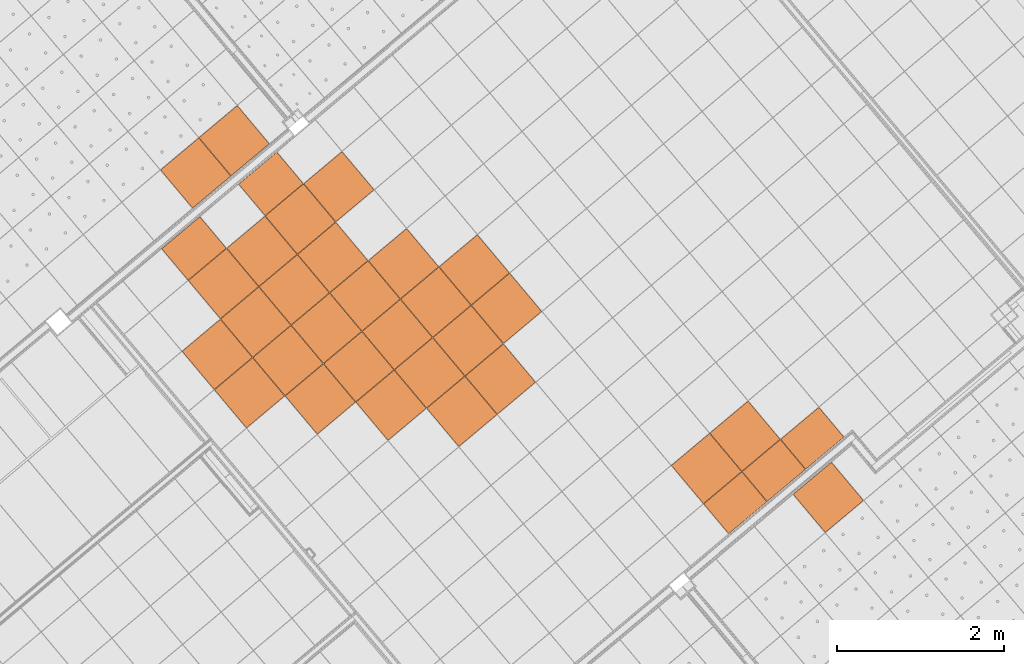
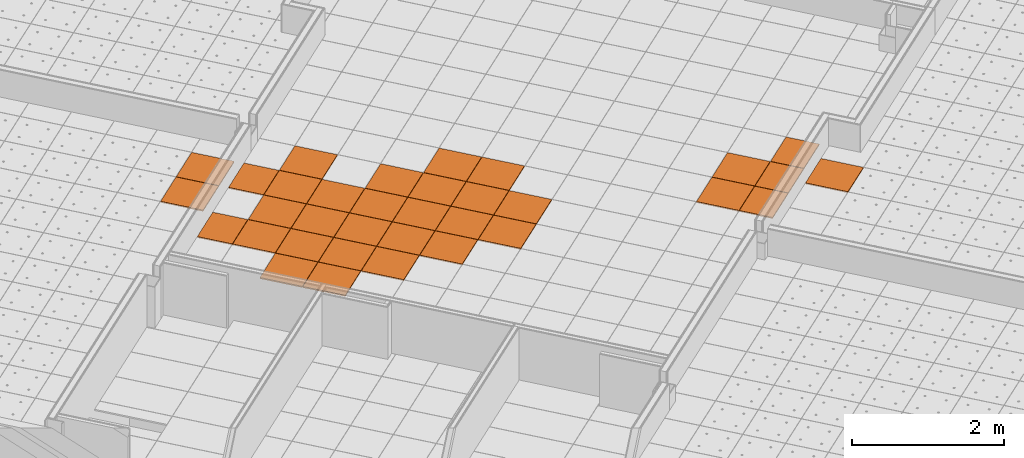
# One storey, part 149 of 338: 34 proxies, 3 elements without a shape of their own.
"""IFC2X3 building model written with IfcOpenShell, lengths in millimetres."""

import ifcopenshell
import ifcopenshell.guid

model = None  # the IFC model being written
_history = None  # IfcOwnerHistory: only IFC2X3 demands one
_inside = {}  # id of a spatial element -> (the spatial element, [elements in it])
_under = {}  # id of a project, library or spatial element -> (it, [spatial elements below it])
_declared = {}  # id of a project -> (the project, [libraries it declares])
_typed = {}  # id of a type object -> (the type object, [elements of that type])
_made_of = {}  # id of a material, layer set ... -> (it, [elements and type objects made of it])


def new_model(schema):
    """Start an empty IFC model of exactly this schema.

    Asked for "IFC4X3", IfcOpenShell would pick the latest addendum, in which some entities
    have other attributes; the version numbers below select the first issue.
    IFC2X3 requires an IfcOwnerHistory on every rooted entity: one is made here for all.
    """
    global model, _history
    if schema == "IFC4X3":
        model = ifcopenshell.file(schema_version=(4, 3, 0, 0))
    else:
        model = ifcopenshell.file(schema=schema)
    _inside.clear()
    _under.clear()
    _declared.clear()
    _typed.clear()
    _made_of.clear()
    _history = None
    if model.schema == "IFC2X3":
        org = make("IfcOrganization", Name="unknown")
        user = make(
            "IfcPersonAndOrganization",
            ThePerson=make("IfcPerson", FamilyName="unknown"),
            TheOrganization=org,
        )
        app = make(
            "IfcApplication",
            ApplicationDeveloper=org,
            Version="unknown",
            ApplicationFullName="unknown",
            ApplicationIdentifier="unknown",
        )
        _history = make(
            "IfcOwnerHistory",
            OwningUser=user,
            OwningApplication=app,
            ChangeAction="ADDED",
            CreationDate=0,
        )
    return model


def make(cls, **values):
    """One entity of the class cls with the attributes given. An attribute that is None is left unset."""
    return model.create_entity(
        cls, **{name: value for name, value in values.items() if value is not None}
    )


def entity(cls, *values):
    """Any entity or typed value of the class cls, its attributes in the order of the schema. None: left unset."""
    e = model.create_entity(cls)
    for i, value in enumerate(values):
        if value is not None:
            e[i] = value
    return e


def rooted(cls, **values):
    """An entity with a GlobalId (a new one), such as an element, a storey or a relation."""
    return make(cls, GlobalId=ifcopenshell.guid.new(), OwnerHistory=_history, **values)


def si_unit(unit_type, name, prefix=None):
    """IfcSIUnit, for example si_unit("LENGTHUNIT", "METRE", prefix="MILLI")."""
    return make("IfcSIUnit", UnitType=unit_type, Prefix=prefix, Name=name)


def converted_unit(unit_type, name, factor, base, dimensions=None, offset=None):
    """IfcConversionBasedUnit, such as the inch: factor (a typed value) times the base unit."""
    return make(
        "IfcConversionBasedUnit"
        if offset is None
        else "IfcConversionBasedUnitWithOffset",
        ConversionOffset=offset,
        Dimensions=None
        if dimensions is None
        else entity("IfcDimensionalExponents", *dimensions),
        UnitType=unit_type,
        Name=name,
        ConversionFactor=make(
            "IfcMeasureWithUnit", ValueComponent=factor, UnitComponent=base
        ),
    )


def derived_unit(unit_type, elements):
    """IfcDerivedUnit: a product of units, each with its exponent."""
    return make(
        "IfcDerivedUnit",
        Elements=[
            make("IfcDerivedUnitElement", Unit=unit, Exponent=power)
            for unit, power in elements
        ],
        UnitType=unit_type,
    )


def money_unit(currency):
    """IfcMonetaryUnit."""
    return make("IfcMonetaryUnit", Currency=currency)


def assignment(units):
    """IfcUnitAssignment: the units of a project."""
    return None if units is None else make("IfcUnitAssignment", Units=units)


def point(xyz):
    """IfcCartesianPoint."""
    return None if xyz is None else make("IfcCartesianPoint", Coordinates=xyz)


def direction(xyz):
    """IfcDirection."""
    return None if xyz is None else make("IfcDirection", DirectionRatios=xyz)


def frame(location, z_axis=None, x_axis=None):
    """IfcAxis2Placement3D, a coordinate frame: its origin and axes. An axis left out is left unset."""
    return make(
        "IfcAxis2Placement3D",
        Location=point(location),
        Axis=direction(z_axis),
        RefDirection=direction(x_axis),
    )


def origin_with_axes():
    """The frame at (0, 0, 0) with the z axis (0, 0, 1) and the x axis (1, 0, 0) written out."""
    return frame((0.0, 0.0, 0.0), z_axis=(0.0, 0.0, 1.0), x_axis=(1.0, 0.0, 0.0))


def place(relative_to, where):
    """IfcLocalPlacement: puts the frame where relative to a parent placement (None: the world)."""
    return make(
        "IfcLocalPlacement", PlacementRelTo=relative_to, RelativePlacement=where
    )


def context(
    kind, dimensions, precision=None, world=None, true_north=None, identifier=None
):
    """IfcGeometricRepresentationContext, for example the 3D "Model" context."""
    return make(
        "IfcGeometricRepresentationContext",
        ContextIdentifier=identifier,
        ContextType=kind,
        CoordinateSpaceDimension=dimensions,
        Precision=precision,
        WorldCoordinateSystem=world,
        TrueNorth=true_north,
    )


def subcontext(parent, identifier, kind, view, scale=None):
    """IfcGeometricRepresentationSubContext, for example "Body" below "Model"."""
    return make(
        "IfcGeometricRepresentationSubContext",
        ContextIdentifier=identifier,
        ContextType=kind,
        ParentContext=parent,
        TargetScale=scale,
        TargetView=view,
    )


def project(units=None, contexts=None):
    """IfcProject with its units and contexts."""
    return rooted(
        "IfcProject",
        Name="project",
        RepresentationContexts=contexts,
        UnitsInContext=assignment(units),
    )


def spatial(cls, under=None, at=None, **own):
    """A site, building, storey or space (cls), placed at a placement, below another one or the project."""
    s = rooted(cls, ObjectPlacement=at, **own)
    if under is not None:
        _under.setdefault(under.id(), (under, []))[1].append(s)
    return s


def faces_of(points, faces, orient=None, outer=None):
    """IfcFace entities. A face is a list of loops; a loop is a list of indices into points, from 0.

    orient and outer hold one flag for each loop. By default every Orientation is true, the
    first loop of a face is its IfcFaceOuterBound and the others are IfcFaceBound.
    """
    made = []
    for i, loops in enumerate(faces):
        bounds = []
        for j, loop in enumerate(loops):
            is_outer = j == 0 if outer is None else outer[i][j]
            bounds.append(
                make(
                    "IfcFaceOuterBound" if is_outer else "IfcFaceBound",
                    Bound=make("IfcPolyLoop", Polygon=[points[k] for k in loop]),
                    Orientation=True if orient is None else orient[i][j],
                )
            )
        made.append(make("IfcFace", Bounds=bounds))
    return made


def faceted_brep(points, faces, orient=None, outer=None, voids=None):
    """IfcFacetedBrep: a solid bounded by flat faces; with voids (closed shells), ...WithVoids."""
    shared = [point(p) for p in points]
    hull = make("IfcClosedShell", CfsFaces=faces_of(shared, faces, orient, outer))
    if voids is None:
        return make("IfcFacetedBrep", Outer=hull)
    return make(
        "IfcFacetedBrepWithVoids",
        Outer=hull,
        Voids=[
            make(cls, CfsFaces=faces_of(shared, fs, o, b)) for cls, fs, o, b in voids
        ],
    )


def shape(context_of_items, identifier, shape_type, items):
    """IfcShapeRepresentation: the items that make up one representation, for example the "Body"."""
    return make(
        "IfcShapeRepresentation",
        ContextOfItems=context_of_items,
        RepresentationIdentifier=identifier,
        RepresentationType=shape_type,
        Items=items,
    )


def source(mapping_origin, context_of_items, identifier, shape_type, items):
    """IfcRepresentationMap: a shape defined once, which mapped items show again and again."""
    return make(
        "IfcRepresentationMap",
        MappingOrigin=mapping_origin,
        MappedRepresentation=shape(context_of_items, identifier, shape_type, items),
    )


def transform(
    local_origin,
    x_axis=None,
    y_axis=None,
    z_axis=None,
    scale=None,
    scale2=None,
    scale3=None,
    uniform=True,
):
    """IfcCartesianTransformationOperator3D, or its non-uniform kind. x_axis, y_axis, z_axis: its Axis1, 2, 3."""
    if uniform:
        return make(
            "IfcCartesianTransformationOperator3D",
            Axis1=direction(x_axis),
            Axis2=direction(y_axis),
            LocalOrigin=point(local_origin),
            Scale=scale,
            Axis3=direction(z_axis),
        )
    return make(
        "IfcCartesianTransformationOperator3DnonUniform",
        Axis1=direction(x_axis),
        Axis2=direction(y_axis),
        LocalOrigin=point(local_origin),
        Scale=scale,
        Axis3=direction(z_axis),
        Scale2=scale2,
        Scale3=scale3,
    )


def mapped(mapping_source, mapping_target):
    """IfcMappedItem: shows the shape of a source again, moved by a transform."""
    return make(
        "IfcMappedItem", MappingSource=mapping_source, MappingTarget=mapping_target
    )


def material(Name=None, Category=None):
    """IfcMaterial."""
    return make("IfcMaterial", Name=Name, Category=Category)


def made_of(thing, what):
    """Note that an element or type object is made of a material, layer set ...; save() writes the relation."""
    if what is not None:
        _made_of.setdefault(what.id(), (what, []))[1].append(thing)
    return thing


def type_object(cls, material=None, **own):
    """A type object (cls), such as IfcWallType, which elements share."""
    return made_of(rooted(cls, **own), material)


def type_shapes(of_type, sources):
    """Give a type object the sources (RepresentationMaps) that its elements show as mapped items."""
    of_type.RepresentationMaps = sources


def element(
    cls,
    number,
    at=None,
    inside=None,
    cuts=None,
    type_object=None,
    material=None,
    context=None,
    identifier="Body",
    shape_type=None,
    held_by="IfcProductDefinitionShape",
    body=None,
    shapes=None,
    **own,
):
    """One element of the class cls, such as IfcWall. Its Tag is "e" and its number.

    at: its placement. inside: the storey or other place that contains it. cuts: it is an
    opening in that element (IfcRelVoidsElement). A single representation is given by context,
    identifier, shape_type and body (its items); several are given by shapes. held_by: the class
    of the entity that holds the representations. save() writes the other relations.
    """
    e = rooted(cls, Tag="e%d" % number, ObjectPlacement=at, **own)
    if body is not None:
        shapes = [shape(context, identifier, shape_type, body)]
    if shapes is not None:
        e.Representation = make(held_by, Representations=shapes)
    if inside is not None:
        _inside.setdefault(inside.id(), (inside, []))[1].append(e)
    if cuts is not None:
        rooted(
            "IfcRelVoidsElement", RelatingBuildingElement=cuts, RelatedOpeningElement=e
        )
    if type_object is not None:
        _typed.setdefault(type_object.id(), (type_object, []))[1].append(e)
    return made_of(e, material)


def aggregate(whole, parts):
    """IfcRelAggregates: a whole, such as a stair, and the parts it consists of."""
    return rooted("IfcRelAggregates", RelatingObject=whole, RelatedObjects=parts)


def save(model, path):
    """Write the relations noted so far, then the file.

    IfcRelAggregates (storeys below a building ...), IfcRelContainedInSpatialStructure (elements
    in a storey), IfcRelDefinesByType, IfcRelAssociatesMaterial and IfcRelDeclares: one each for
    every whole, place, type object, material and project.
    """
    for whole, parts in _under.values():
        aggregate(whole, parts)
    for where, things in _inside.values():
        rooted(
            "IfcRelContainedInSpatialStructure",
            RelatedElements=things,
            RelatingStructure=where,
        )
    for kind, things in _typed.values():
        rooted("IfcRelDefinesByType", RelatedObjects=things, RelatingType=kind)
    for what, things in _made_of.values():
        rooted("IfcRelAssociatesMaterial", RelatedObjects=things, RelatingMaterial=what)
    for by, libraries in _declared.values():
        rooted("IfcRelDeclares", RelatingContext=by, RelatedDefinitions=libraries)
    model.write(path)


model = new_model("IFC2X3")

# Units and contexts
model_context = context("Model", 3, precision=0.01, world=origin_with_axes(), true_north=direction((0.0, 1.0)))
plan_context = context("Plan", 3, precision=0.01, world=origin_with_axes(), true_north=direction((0.0, 1.0)))
body_context = subcontext(model_context, "Body", "Model", "MODEL_VIEW")
ifc_project = project(units=[si_unit("LENGTHUNIT", "METRE", prefix="MILLI"), si_unit("AREAUNIT", "SQUARE_METRE"), si_unit("VOLUMEUNIT", "CUBIC_METRE"), converted_unit("PLANEANGLEUNIT", "DEGREE", entity("IfcPlaneAngleMeasure", 0.0174532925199), si_unit("PLANEANGLEUNIT", "RADIAN"), dimensions=[0, 0, 0, 0, 0, 0, 0]), money_unit("EUR"), converted_unit("TIMEUNIT", "Year", entity("IfcTimeMeasure", 31556926.0), si_unit("TIMEUNIT", "SECOND"), dimensions=[0, 0, 1, 0, 0, 0, 0]), si_unit("MASSUNIT", "GRAM", prefix="KILO"), si_unit("THERMODYNAMICTEMPERATUREUNIT", "DEGREE_CELSIUS"), si_unit("LUMINOUSINTENSITYUNIT", "LUMEN"), si_unit("ENERGYUNIT", "JOULE", prefix="MEGA"), derived_unit("THERMALCONDUCTANCEUNIT", [(si_unit("POWERUNIT", "WATT"), 1), (si_unit("LENGTHUNIT", "METRE"), -1), (si_unit("THERMODYNAMICTEMPERATUREUNIT", "KELVIN"), -1)]), derived_unit("SPECIFICHEATCAPACITYUNIT", [(si_unit("ENERGYUNIT", "JOULE"), 1), (si_unit("MASSUNIT", "GRAM", prefix="KILO"), -1), (si_unit("THERMODYNAMICTEMPERATUREUNIT", "KELVIN"), -1)]), derived_unit("MASSDENSITYUNIT", [(si_unit("MASSUNIT", "GRAM", prefix="KILO"), 1), (si_unit("VOLUMEUNIT", "CUBIC_METRE"), -1)])], contexts=[model_context, plan_context])

# Site, building, storey
site_placement = place(None, origin_with_axes())
site = spatial("IfcSite", under=ifc_project, at=site_placement, Name="Fortuinstraat Woensdrecht", CompositionType="ELEMENT")
building_placement = place(site_placement, origin_with_axes())
building = spatial("IfcBuilding", under=site, at=building_placement, Name="IKC Fortuna", CompositionType="ELEMENT")
storey_placement = place(building_placement, origin_with_axes())
storey = spatial("IfcBuildingStorey", under=building, at=storey_placement, Name="00 begane grond", CompositionType="ELEMENT", Elevation=0.0)

# Covering, proxies
covering_type = type_object("IfcCoveringType", Name="Curtain Wall Type", PredefinedType="CEILING")
covering_1_placement = place(storey_placement, frame((17937.1227498, -4186.27868692, 4660.0), z_axis=(0.0, 0.0, 1.0), x_axis=(1.0, 0.0, 0.0)))
covering_1 = element("IfcCovering", 1, at=covering_1_placement, inside=storey, type_object=covering_type, Name="45_Plafondafwerking_P02", PredefinedType="CEILING")
ifc_material = material(Name="Gipsplaat")
building_element_proxy_type_1 = type_object("IfcBuildingElementProxyType", Name="Distinct Panel 600 x 600 x 20", PredefinedType="NOTDEFINED")
shared_shape_1 = source(origin_with_axes(), body_context, "Body", "Brep", [
    faceted_brep([(2.49999999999, 2.5, -10.0), (597.5, 2.49999999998, -10.0), (597.5, 2.49999999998, 10.0), (2.49999999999, 2.5, 10.0), (2.50000000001, 597.5, -10.0), (597.5, 597.5, -10.0), (597.5, 597.5, 10.0), (2.50000000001, 597.5, 10.0)], [[[0, 1, 2, 3]], [[0, 4, 5, 1]], [[1, 5, 6, 2]], [[3, 2, 6, 7]], [[4, 0, 3, 7]], [[5, 4, 7, 6]]]),
])
proxy_1_placement = place(covering_1_placement, frame((-7903.28832612, 1017.86127667, 2.3803181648e-10), z_axis=(0.0, 0.0, 1.0), x_axis=(1.0, 0.0, 0.0)))
proxy_1 = element("IfcBuildingElementProxy", 2, at=proxy_1_placement, type_object=building_element_proxy_type_1, material=ifc_material, Name="__Panel-D", context=body_context, shape_type="MappedRepresentation", body=[
    mapped(shared_shape_1, transform((36.9769427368, 422.649625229, 0.0), x_axis=(-0.766044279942, -0.642787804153, 0.0), y_axis=(0.642787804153, -0.766044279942, 0.0), z_axis=(0.0, 0.0, 1.0))),
])
proxy_2_placement = place(covering_1_placement, frame((-8362.91489409, 632.188594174, 2.57571741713e-10), z_axis=(0.0, 0.0, 1.0), x_axis=(1.0, 0.0, 0.0)))
proxy_2 = element("IfcBuildingElementProxy", 3, at=proxy_2_placement, type_object=building_element_proxy_type_1, material=ifc_material, Name="__Panel-D", context=body_context, shape_type="MappedRepresentation", body=[
    mapped(shared_shape_1, transform((36.9769427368, 422.649625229, 0.0), x_axis=(-0.766044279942, -0.642787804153, 0.0), y_axis=(0.642787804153, -0.766044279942, 0.0), z_axis=(0.0, 0.0, 1.0))),
])
proxy_3_placement = place(covering_1_placement, frame((-6910.08130472, 2634.50589211, 1.79412040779e-10), z_axis=(0.0, 0.0, 1.0), x_axis=(1.0, 0.0, 0.0)))
proxy_3 = element("IfcBuildingElementProxy", 4, at=proxy_3_placement, type_object=building_element_proxy_type_1, material=ifc_material, Name="__Panel-D", context=body_context, shape_type="MappedRepresentation", body=[
    mapped(shared_shape_1, transform((36.9769427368, 422.649625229, 0.0), x_axis=(-0.766044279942, -0.642787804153, 0.0), y_axis=(0.642787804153, -0.766044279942, 0.0), z_axis=(0.0, 0.0, 1.0))),
])
proxy_4_placement = place(covering_1_placement, frame((-7369.70787268, 2248.83320961, 1.98951966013e-10), z_axis=(0.0, 0.0, 1.0), x_axis=(1.0, 0.0, 0.0)))
proxy_4 = element("IfcBuildingElementProxy", 5, at=proxy_4_placement, type_object=building_element_proxy_type_1, material=ifc_material, Name="__Panel-D", context=body_context, shape_type="MappedRepresentation", body=[
    mapped(shared_shape_1, transform((36.9769427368, 422.649625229, 0.0), x_axis=(-0.766044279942, -0.642787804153, 0.0), y_axis=(0.642787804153, -0.766044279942, 0.0), z_axis=(0.0, 0.0, 1.0))),
])
proxy_5_placement = place(covering_1_placement, frame((-7829.33444065, 1863.16052712, 2.18491891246e-10), z_axis=(0.0, 0.0, 1.0), x_axis=(1.0, 0.0, 0.0)))
proxy_5 = element("IfcBuildingElementProxy", 6, at=proxy_5_placement, type_object=building_element_proxy_type_1, material=ifc_material, Name="__Panel-D", context=body_context, shape_type="MappedRepresentation", body=[
    mapped(shared_shape_1, transform((36.9769427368, 422.649625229, 0.0), x_axis=(-0.766044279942, -0.642787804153, 0.0), y_axis=(0.642787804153, -0.766044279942, 0.0), z_axis=(0.0, 0.0, 1.0))),
])
proxy_6_placement = place(covering_1_placement, frame((-7517.61564363, 558.2347087, 2.3803181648e-10), z_axis=(0.0, 0.0, 1.0), x_axis=(1.0, 0.0, 0.0)))
proxy_6 = element("IfcBuildingElementProxy", 7, at=proxy_6_placement, type_object=building_element_proxy_type_1, material=ifc_material, Name="__Panel-D", context=body_context, shape_type="MappedRepresentation", body=[
    mapped(shared_shape_1, transform((36.9769427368, 422.649625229, 0.0), x_axis=(-0.766044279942, -0.642787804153, 0.0), y_axis=(0.642787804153, -0.766044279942, 0.0), z_axis=(0.0, 0.0, 1.0))),
])
proxy_7_placement = place(covering_1_placement, frame((-8288.96100861, 1477.48784463, 2.3803181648e-10), z_axis=(0.0, 0.0, 1.0), x_axis=(1.0, 0.0, 0.0)))
proxy_7 = element("IfcBuildingElementProxy", 8, at=proxy_7_placement, type_object=building_element_proxy_type_1, material=ifc_material, Name="__Panel-D", context=body_context, shape_type="MappedRepresentation", body=[
    mapped(shared_shape_1, transform((36.9769427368, 422.649625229, 0.0), x_axis=(-0.766044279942, -0.642787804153, 0.0), y_axis=(0.642787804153, -0.766044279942, 0.0), z_axis=(0.0, 0.0, 1.0))),
])
proxy_8_placement = place(covering_1_placement, frame((-6984.03519019, 1789.20664165, 1.98951966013e-10), z_axis=(0.0, 0.0, 1.0), x_axis=(1.0, 0.0, 0.0)))
proxy_8 = element("IfcBuildingElementProxy", 9, at=proxy_8_placement, type_object=building_element_proxy_type_1, material=ifc_material, Name="__Panel-D", context=body_context, shape_type="MappedRepresentation", body=[
    mapped(shared_shape_1, transform((36.9769427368, 422.649625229, 0.0), x_axis=(-0.766044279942, -0.642787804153, 0.0), y_axis=(0.642787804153, -0.766044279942, 0.0), z_axis=(0.0, 0.0, 1.0))),
])
proxy_9_placement = place(covering_1_placement, frame((-6286.64371068, 24.6542552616, 2.18491891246e-10), z_axis=(0.0, 0.0, 1.0), x_axis=(1.0, 0.0, 0.0)))
proxy_9 = element("IfcBuildingElementProxy", 10, at=proxy_9_placement, type_object=building_element_proxy_type_1, material=ifc_material, Name="__Panel-D", context=body_context, shape_type="MappedRepresentation", body=[
    mapped(shared_shape_1, transform((36.9769427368, 422.649625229, 0.0), x_axis=(-0.766044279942, -0.642787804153, 0.0), y_axis=(0.642787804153, -0.766044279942, 0.0), z_axis=(0.0, 0.0, 1.0))),
])
proxy_10_placement = place(covering_1_placement, frame((-6672.31639317, 484.280823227, 2.18491891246e-10), z_axis=(0.0, 0.0, 1.0), x_axis=(1.0, 0.0, 0.0)))
proxy_10 = element("IfcBuildingElementProxy", 11, at=proxy_10_placement, type_object=building_element_proxy_type_1, material=ifc_material, Name="__Panel-D", context=body_context, shape_type="MappedRepresentation", body=[
    mapped(shared_shape_1, transform((36.9769427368, 422.649625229, 0.0), x_axis=(-0.766044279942, -0.642787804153, 0.0), y_axis=(0.642787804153, -0.766044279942, 0.0), z_axis=(0.0, 0.0, 1.0))),
])
proxy_11_placement = place(covering_1_placement, frame((-6138.73593973, 1715.25275618, 1.79412040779e-10), z_axis=(0.0, 0.0, 1.0), x_axis=(1.0, 0.0, 0.0)))
proxy_11 = element("IfcBuildingElementProxy", 12, at=proxy_11_placement, type_object=building_element_proxy_type_1, material=ifc_material, Name="__Panel-D", context=body_context, shape_type="MappedRepresentation", body=[
    mapped(shared_shape_1, transform((36.9769427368, 422.649625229, 0.0), x_axis=(-0.766044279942, -0.642787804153, 0.0), y_axis=(0.642787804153, -0.766044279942, 0.0), z_axis=(0.0, 0.0, 1.0))),
])
proxy_12_placement = place(covering_1_placement, frame((-7131.94296114, 98.6081407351, 2.3803181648e-10), z_axis=(0.0, 0.0, 1.0), x_axis=(1.0, 0.0, 0.0)))
proxy_12 = element("IfcBuildingElementProxy", 13, at=proxy_12_placement, type_object=building_element_proxy_type_1, material=ifc_material, Name="__Panel-D", context=body_context, shape_type="MappedRepresentation", body=[
    mapped(shared_shape_1, transform((36.9769427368, 422.649625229, 0.0), x_axis=(-0.766044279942, -0.642787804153, 0.0), y_axis=(0.642787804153, -0.766044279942, 0.0), z_axis=(0.0, 0.0, 1.0))),
])
proxy_13_placement = place(covering_1_placement, frame((-5441.34446022, -49.299630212, 1.98951966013e-10), z_axis=(0.0, 0.0, 1.0), x_axis=(1.0, 0.0, 0.0)))
proxy_13 = element("IfcBuildingElementProxy", 14, at=proxy_13_placement, type_object=building_element_proxy_type_1, material=ifc_material, Name="__Panel-D", context=body_context, shape_type="MappedRepresentation", body=[
    mapped(shared_shape_1, transform((36.9769427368, 422.649625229, 0.0), x_axis=(-0.766044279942, -0.642787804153, 0.0), y_axis=(0.642787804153, -0.766044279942, 0.0), z_axis=(0.0, 0.0, 1.0))),
])
proxy_14_placement = place(covering_1_placement, frame((-2060.1474584, -345.115172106, 1.1990408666e-10), z_axis=(0.0, 0.0, 1.0), x_axis=(1.0, 0.0, 0.0)))
proxy_14 = element("IfcBuildingElementProxy", 15, at=proxy_14_placement, type_object=building_element_proxy_type_1, material=ifc_material, Name="__Panel-D", context=body_context, shape_type="MappedRepresentation", body=[
    mapped(shared_shape_1, transform((36.9769427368, 422.649625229, 0.0), x_axis=(-0.766044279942, -0.642787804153, 0.0), y_axis=(0.642787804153, -0.766044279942, 0.0), z_axis=(0.0, 0.0, 1.0))),
])
proxy_15_placement = place(covering_1_placement, frame((-2519.77402636, -730.787854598, 1.39444011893e-10), z_axis=(0.0, 0.0, 1.0), x_axis=(1.0, 0.0, 0.0)))
proxy_15 = element("IfcBuildingElementProxy", 16, at=proxy_15_placement, type_object=building_element_proxy_type_1, material=ifc_material, Name="__Panel-D", context=body_context, shape_type="MappedRepresentation", body=[
    mapped(shared_shape_1, transform((36.9769427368, 422.649625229, 0.0), x_axis=(-0.766044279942, -0.642787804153, 0.0), y_axis=(0.642787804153, -0.766044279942, 0.0), z_axis=(0.0, 0.0, 1.0))),
])
proxy_16_placement = place(covering_1_placement, frame((-5293.43668928, 1641.2988707, 1.58983937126e-10), z_axis=(0.0, 0.0, 1.0), x_axis=(1.0, 0.0, 0.0)))
proxy_16 = element("IfcBuildingElementProxy", 17, at=proxy_16_placement, type_object=building_element_proxy_type_1, material=ifc_material, Name="__Panel-D", context=body_context, shape_type="MappedRepresentation", body=[
    mapped(shared_shape_1, transform((36.9769427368, 422.649625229, 0.0), x_axis=(-0.766044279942, -0.642787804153, 0.0), y_axis=(0.642787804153, -0.766044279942, 0.0), z_axis=(0.0, 0.0, 1.0))),
])
proxy_17_placement = place(covering_1_placement, frame((-4907.76400679, 1181.67230274, 1.58983937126e-10), z_axis=(0.0, 0.0, 1.0), x_axis=(1.0, 0.0, 0.0)))
proxy_17 = element("IfcBuildingElementProxy", 18, at=proxy_17_placement, type_object=building_element_proxy_type_1, material=ifc_material, Name="__Panel-D", context=body_context, shape_type="MappedRepresentation", body=[
    mapped(shared_shape_1, transform((36.9769427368, 422.649625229, 0.0), x_axis=(-0.766044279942, -0.642787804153, 0.0), y_axis=(0.642787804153, -0.766044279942, 0.0), z_axis=(0.0, 0.0, 1.0))),
])
proxy_18_placement = place(covering_1_placement, frame((-5753.06325724, 1255.62618821, 1.79412040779e-10), z_axis=(0.0, 0.0, 1.0), x_axis=(1.0, 0.0, 0.0)))
proxy_18 = element("IfcBuildingElementProxy", 19, at=proxy_18_placement, type_object=building_element_proxy_type_1, material=ifc_material, Name="__Panel-D", context=body_context, shape_type="MappedRepresentation", body=[
    mapped(shared_shape_1, transform((36.9769427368, 422.649625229, 0.0), x_axis=(-0.766044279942, -0.642787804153, 0.0), y_axis=(0.642787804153, -0.766044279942, 0.0), z_axis=(0.0, 0.0, 1.0))),
])
proxy_19_placement = place(covering_1_placement, frame((-5367.39057475, 795.999620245, 1.79412040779e-10), z_axis=(0.0, 0.0, 1.0), x_axis=(1.0, 0.0, 0.0)))
proxy_19 = element("IfcBuildingElementProxy", 20, at=proxy_19_placement, type_object=building_element_proxy_type_1, material=ifc_material, Name="__Panel-D", context=body_context, shape_type="MappedRepresentation", body=[
    mapped(shared_shape_1, transform((36.9769427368, 422.649625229, 0.0), x_axis=(-0.766044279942, -0.642787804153, 0.0), y_axis=(0.642787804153, -0.766044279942, 0.0), z_axis=(0.0, 0.0, 1.0))),
])
proxy_20_placement = place(covering_1_placement, frame((-4981.71789226, 336.37305228, 1.79412040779e-10), z_axis=(0.0, 0.0, 1.0), x_axis=(1.0, 0.0, 0.0)))
proxy_20 = element("IfcBuildingElementProxy", 21, at=proxy_20_placement, type_object=building_element_proxy_type_1, material=ifc_material, Name="__Panel-D", context=body_context, shape_type="MappedRepresentation", body=[
    mapped(shared_shape_1, transform((36.9769427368, 422.649625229, 0.0), x_axis=(-0.766044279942, -0.642787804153, 0.0), y_axis=(0.642787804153, -0.766044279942, 0.0), z_axis=(0.0, 0.0, 1.0))),
])
proxy_21_placement = place(covering_1_placement, frame((-6212.68982521, 869.953505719, 1.98951966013e-10), z_axis=(0.0, 0.0, 1.0), x_axis=(1.0, 0.0, 0.0)))
proxy_21 = element("IfcBuildingElementProxy", 22, at=proxy_21_placement, type_object=building_element_proxy_type_1, material=ifc_material, Name="__Panel-D", context=body_context, shape_type="MappedRepresentation", body=[
    mapped(shared_shape_1, transform((36.9769427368, 422.649625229, 0.0), x_axis=(-0.766044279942, -0.642787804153, 0.0), y_axis=(0.642787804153, -0.766044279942, 0.0), z_axis=(0.0, 0.0, 1.0))),
])
proxy_22_placement = place(covering_1_placement, frame((-5827.01714272, 410.326937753, 1.98951966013e-10), z_axis=(0.0, 0.0, 1.0), x_axis=(1.0, 0.0, 0.0)))
proxy_22 = element("IfcBuildingElementProxy", 23, at=proxy_22_placement, type_object=building_element_proxy_type_1, material=ifc_material, Name="__Panel-D", context=body_context, shape_type="MappedRepresentation", body=[
    mapped(shared_shape_1, transform((36.9769427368, 422.649625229, 0.0), x_axis=(-0.766044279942, -0.642787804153, 0.0), y_axis=(0.642787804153, -0.766044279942, 0.0), z_axis=(0.0, 0.0, 1.0))),
])
building_element_proxy_type_2 = type_object("IfcBuildingElementProxyType", Name="Distinct Panel 600 x 470 x 20", PredefinedType="NOTDEFINED")
shared_shape_2 = source(origin_with_axes(), body_context, "Body", "Brep", [
    faceted_brep([(2.49999368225, 2.50000660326, -10.0), (597.499997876, 2.49999535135, -10.0), (597.499997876, 2.49999535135, 10.0), (2.49999368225, 2.50000660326, 10.0), (2.49999873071, 467.226768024, -10.0), (597.500011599, 467.226749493, -10.0), (597.500011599, 467.226749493, 10.0), (2.49999873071, 467.226768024, 10.0)], [[[0, 1, 2, 3]], [[0, 4, 5, 1]], [[1, 5, 6, 2]], [[3, 2, 6, 7]], [[4, 0, 3, 7]], [[5, 4, 7, 6]]]),
])
type_shapes(building_element_proxy_type_2, [shared_shape_2])
proxy_23_placement = place(covering_1_placement, frame((-2175.97036963, -1140.51688642, 1.39444011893e-10), z_axis=(0.0, 0.0, 1.0), x_axis=(1.0, 0.0, 0.0)))
proxy_23 = element("IfcBuildingElementProxy", 24, at=proxy_23_placement, type_object=building_element_proxy_type_2, material=ifc_material, Name="__Panel-D", context=body_context, shape_type="MappedRepresentation", body=[
    mapped(shared_shape_2, transform((78.8459684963, 372.752089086, 0.0), x_axis=(-0.766044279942, -0.642787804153, 0.0), y_axis=(0.642787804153, -0.766044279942, 0.0), z_axis=(0.0, 0.0, 1.0))),
])
proxy_24_placement = place(covering_1_placement, frame((-1716.34380166, -754.844203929, 1.1990408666e-10), z_axis=(0.0, 0.0, 1.0), x_axis=(1.0, 0.0, 0.0)))
proxy_24 = element("IfcBuildingElementProxy", 25, at=proxy_24_placement, type_object=building_element_proxy_type_2, material=ifc_material, Name="__Panel-D", context=body_context, shape_type="MappedRepresentation", body=[
    mapped(shared_shape_2, transform((78.8459684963, 372.752089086, 0.0), x_axis=(-0.766044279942, -0.642787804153, 0.0), y_axis=(0.642787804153, -0.766044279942, 0.0), z_axis=(0.0, 0.0, 1.0))),
])
proxy_25_placement = place(covering_1_placement, frame((-1256.7172337, -369.171521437, 1.00364161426e-10), z_axis=(0.0, 0.0, 1.0), x_axis=(1.0, 0.0, 0.0)))
proxy_25 = element("IfcBuildingElementProxy", 26, at=proxy_25_placement, type_object=building_element_proxy_type_2, material=ifc_material, Name="__Panel-D", context=body_context, shape_type="MappedRepresentation", body=[
    mapped(shared_shape_2, transform((78.8459684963, 372.752089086, 0.0), x_axis=(-0.766044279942, -0.642787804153, 0.0), y_axis=(0.642787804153, -0.766044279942, 0.0), z_axis=(0.0, 0.0, 1.0))),
])
building_element_proxy_type_3 = type_object("IfcBuildingElementProxyType", Name="Distinct Panel 600 x 495 x 20", PredefinedType="NOTDEFINED")
shared_shape_3 = source(origin_with_axes(), body_context, "Body", "Brep", [
    faceted_brep([(2.49999363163, 107.227066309, -10.0), (597.499995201, 107.226926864, -10.0), (597.499995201, 107.226926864, 10.0), (2.49999363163, 107.227066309, 10.0), (2.50000062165, 597.499998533, -10.0), (597.500007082, 597.499990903, -10.0), (597.500007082, 597.499990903, 10.0), (2.50000062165, 597.499998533, 10.0)], [[[0, 1, 2, 3]], [[0, 4, 5, 1]], [[1, 5, 6, 2]], [[3, 2, 6, 7]], [[4, 0, 3, 7]], [[5, 4, 7, 6]]]),
])
proxy_26_placement = place(covering_1_placement, frame((-8640.97507286, 1897.00165407, 2.3803181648e-10), z_axis=(0.0, 0.0, 1.0), x_axis=(1.0, 0.0, 0.0)))
proxy_26 = element("IfcBuildingElementProxy", 27, at=proxy_26_placement, type_object=building_element_proxy_type_3, material=ifc_material, Name="__Panel-D", context=body_context, shape_type="MappedRepresentation", body=[
    mapped(shared_shape_3, transform((3.31832449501, 462.76238376, 0.0), x_axis=(-0.766044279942, -0.642787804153, 0.0), y_axis=(0.642787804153, -0.766044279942, 0.0), z_axis=(0.0, 0.0, 1.0))),
])
shared_shape_4 = source(origin_with_axes(), body_context, "Body", "Brep", [
    faceted_brep([(2.5000069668, 2.4999963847, -10.0), (597.499995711, 2.50000275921, -10.0), (597.499995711, 2.50000275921, 10.0), (2.5000069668, 2.4999963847, 10.0), (2.50000214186, 597.499967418, -10.0), (597.499990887, 597.499973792, -10.0), (597.499990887, 597.499973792, 10.0), (2.50000214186, 597.499967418, 10.0)], [[[0, 1, 2, 3]], [[0, 4, 5, 1]], [[1, 5, 6, 2]], [[3, 2, 6, 7]], [[4, 0, 3, 7]], [[5, 4, 7, 6]]]),
])
type_shapes(building_element_proxy_type_1, [shared_shape_1, shared_shape_4])
proxy_27_placement = place(covering_1_placement, frame((-7057.98907567, 943.907391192, 2.18491891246e-10), z_axis=(0.0, 0.0, 1.0), x_axis=(1.0, 0.0, 0.0)))
proxy_27 = element("IfcBuildingElementProxy", 28, at=proxy_27_placement, type_object=building_element_proxy_type_1, material=ifc_material, Name="__Panel-D", context=body_context, shape_type="MappedRepresentation", body=[
    mapped(shared_shape_4, transform((36.9769427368, 422.649625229, 0.0), x_axis=(-0.766044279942, -0.642787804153, 0.0), y_axis=(0.642787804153, -0.766044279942, 0.0), z_axis=(0.0, 0.0, 1.0))),
])
proxy_28_placement = place(covering_1_placement, frame((-7443.66175816, 1403.53395916, 2.18491891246e-10), z_axis=(0.0, 0.0, 1.0), x_axis=(1.0, 0.0, 0.0)))
proxy_28 = element("IfcBuildingElementProxy", 29, at=proxy_28_placement, type_object=building_element_proxy_type_1, material=ifc_material, Name="__Panel-D", context=body_context, shape_type="MappedRepresentation", body=[
    mapped(shared_shape_4, transform((36.9769427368, 422.649625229, 0.0), x_axis=(-0.766044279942, -0.642787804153, 0.0), y_axis=(0.642787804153, -0.766044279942, 0.0), z_axis=(0.0, 0.0, 1.0))),
])
proxy_29_placement = place(covering_1_placement, frame((-7977.2422116, 172.562026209, 2.57571741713e-10), z_axis=(0.0, 0.0, 1.0), x_axis=(1.0, 0.0, 0.0)))
proxy_29 = element("IfcBuildingElementProxy", 30, at=proxy_29_placement, type_object=building_element_proxy_type_1, material=ifc_material, Name="__Panel-D", context=body_context, shape_type="MappedRepresentation", body=[
    mapped(shared_shape_4, transform((36.9769427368, 422.649625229, 0.0), x_axis=(-0.766044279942, -0.642787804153, 0.0), y_axis=(0.642787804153, -0.766044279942, 0.0), z_axis=(0.0, 0.0, 1.0))),
])
proxy_30_placement = place(covering_1_placement, frame((-6598.3625077, 1329.58007368, 1.98951966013e-10), z_axis=(0.0, 0.0, 1.0), x_axis=(1.0, 0.0, 0.0)))
proxy_30 = element("IfcBuildingElementProxy", 31, at=proxy_30_placement, type_object=building_element_proxy_type_1, material=ifc_material, Name="__Panel-D", context=body_context, shape_type="MappedRepresentation", body=[
    mapped(shared_shape_4, transform((36.9769427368, 422.649625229, 0.0), x_axis=(-0.766044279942, -0.642787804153, 0.0), y_axis=(0.642787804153, -0.766044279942, 0.0), z_axis=(0.0, 0.0, 1.0))),
])
shared_shape_5 = source(origin_with_axes(), body_context, "Body", "Brep", [
    faceted_brep([(2.49999396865, 107.22693881, -10.0), (597.499990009, 107.226784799, -10.0), (597.499990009, 107.226784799, 10.0), (2.49999396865, 107.22693881, 10.0), (2.50000269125, 597.500000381, -10.0), (597.500002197, 597.499994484, -10.0), (597.500002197, 597.499994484, 10.0), (2.50000269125, 597.500000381, 10.0)], [[[0, 1, 2, 3]], [[0, 4, 5, 1]], [[1, 5, 6, 2]], [[3, 2, 6, 7]], [[4, 0, 3, 7]], [[5, 4, 7, 6]]]),
])
type_shapes(building_element_proxy_type_3, [shared_shape_3, shared_shape_5])
proxy_31_placement = place(covering_1_placement, frame((-7721.7218492, 2668.34691449, 1.98951966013e-10), z_axis=(0.0, 0.0, 1.0), x_axis=(1.0, 0.0, 0.0)))
proxy_31 = element("IfcBuildingElementProxy", 32, at=proxy_31_placement, type_object=building_element_proxy_type_3, material=ifc_material, Name="__Panel-D", context=body_context, shape_type="MappedRepresentation", body=[
    mapped(shared_shape_5, transform((3.31823675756, 462.762488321, 0.0), x_axis=(-0.766044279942, -0.642787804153, 0.0), y_axis=(0.642787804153, -0.766044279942, 0.0), z_axis=(0.0, 0.0, 1.0))),
])
aggregate(covering_1, [proxy_1, proxy_2, proxy_3, proxy_4, proxy_5, proxy_6, proxy_26, proxy_7, proxy_27, proxy_23, proxy_28, proxy_29, proxy_8, proxy_30, proxy_9, proxy_10, proxy_11, proxy_12, proxy_13, proxy_31, proxy_14, proxy_15, proxy_24, proxy_16, proxy_17, proxy_18, proxy_19, proxy_20, proxy_21, proxy_22, proxy_25])

covering_2_placement = place(storey_placement, frame((9775.85169731, -1002.28242867, 4660.0), z_axis=(0.0, 0.0, 1.0), x_axis=(1.0, 0.0, 0.0)))
covering_2 = element("IfcCovering", 33, at=covering_2_placement, inside=storey, type_object=covering_type, Name="45_Plafondafwerking_P01", PredefinedType="CEILING")
building_element_proxy_type_4 = type_object("IfcBuildingElementProxyType", Name="600 x 600 x 20", PredefinedType="NOTDEFINED")
shared_shape_6 = source(origin_with_axes(), body_context, "Body", "Brep", [
    faceted_brep([(2.49999732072, 2.50000913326, -10.0), (597.499988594, 2.49999469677, -10.0), (597.499988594, 2.49999469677, 10.0), (2.49999732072, 2.50000913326, 10.0), (2.49999902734, 597.500043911, -10.0), (597.499988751, 597.500047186, -10.0), (597.499988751, 597.500047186, 10.0), (2.49999902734, 597.500043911, 10.0)], [[[0, 1, 2, 3]], [[0, 4, 5, 1]], [[1, 5, 6, 2]], [[3, 2, 6, 7]], [[4, 0, 3, 7]], [[5, 4, 7, 6]]]),
])
proxy_32_placement = place(covering_2_placement, origin_with_axes())
proxy_32 = element("IfcBuildingElementProxy", 34, at=proxy_32_placement, type_object=building_element_proxy_type_4, material=ifc_material, Name="__600x600 Rockfon Krios", context=body_context, shape_type="MappedRepresentation", body=[
    mapped(shared_shape_6, transform((36.9769283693, 422.649642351, 0.0), x_axis=(-0.766044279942, -0.642787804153, 0.0), y_axis=(0.642787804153, -0.766044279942, 0.0), z_axis=(0.0, 0.0, 1.0))),
])
proxy_33_placement = place(covering_2_placement, frame((-459.626567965, -385.672682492, 0.0), z_axis=(0.0, 0.0, 1.0), x_axis=(1.0, 0.0, 0.0)))
proxy_33 = element("IfcBuildingElementProxy", 35, at=proxy_33_placement, type_object=building_element_proxy_type_4, material=ifc_material, Name="__600x629 Rockfon Krios", context=body_context, shape_type="MappedRepresentation", body=[
    mapped(shared_shape_6, transform((36.9769283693, 422.649642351, 0.0), x_axis=(-0.766044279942, -0.642787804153, 0.0), y_axis=(0.642787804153, -0.766044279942, 0.0), z_axis=(0.0, 0.0, 1.0))),
])
aggregate(covering_2, [proxy_32, proxy_33])

# Covering, proxy
covering_3_placement = place(storey_placement, frame((19785.7448517, -11392.5753808, 4660.0), z_axis=(0.0, 0.0, 1.0), x_axis=(1.0, 0.0, 0.0)))
covering_3 = element("IfcCovering", 36, at=covering_3_placement, inside=storey, type_object=covering_type, Name="45_Plafondafwerking_P01", PredefinedType="CEILING")
shared_shape_7 = source(origin_with_axes(), body_context, "Body", "Brep", [
    faceted_brep([(2.49999736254, 2.50000909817, -10.0), (597.499988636, 2.49999466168, -10.0), (597.499988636, 2.49999466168, 10.0), (2.49999736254, 2.50000909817, 10.0), (2.49999906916, 597.500043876, -10.0), (597.499988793, 597.500047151, -10.0), (597.499988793, 597.500047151, 10.0), (2.49999906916, 597.500043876, 10.0)], [[[0, 1, 2, 3]], [[0, 4, 5, 1]], [[1, 5, 6, 2]], [[3, 2, 6, 7]], [[4, 0, 3, 7]], [[5, 4, 7, 6]]]),
])
type_shapes(building_element_proxy_type_4, [shared_shape_6, shared_shape_7])
proxy_34_placement = place(covering_3_placement, frame((-2913.33560562, 6130.31781397, 1.80300219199e-10), z_axis=(0.0, 0.0, 1.0), x_axis=(1.0, 0.0, 0.0)))
proxy_34 = element("IfcBuildingElementProxy", 37, at=proxy_34_placement, type_object=building_element_proxy_type_4, material=ifc_material, Name="__600x649 Rockfon Krios", context=body_context, shape_type="MappedRepresentation", body=[
    mapped(shared_shape_7, transform((36.9769427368, 422.649625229, 0.0), x_axis=(-0.766044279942, -0.642787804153, 0.0), y_axis=(0.642787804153, -0.766044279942, 0.0), z_axis=(0.0, 0.0, 1.0))),
])
aggregate(covering_3, [proxy_34])

save(model, "model.ifc")
